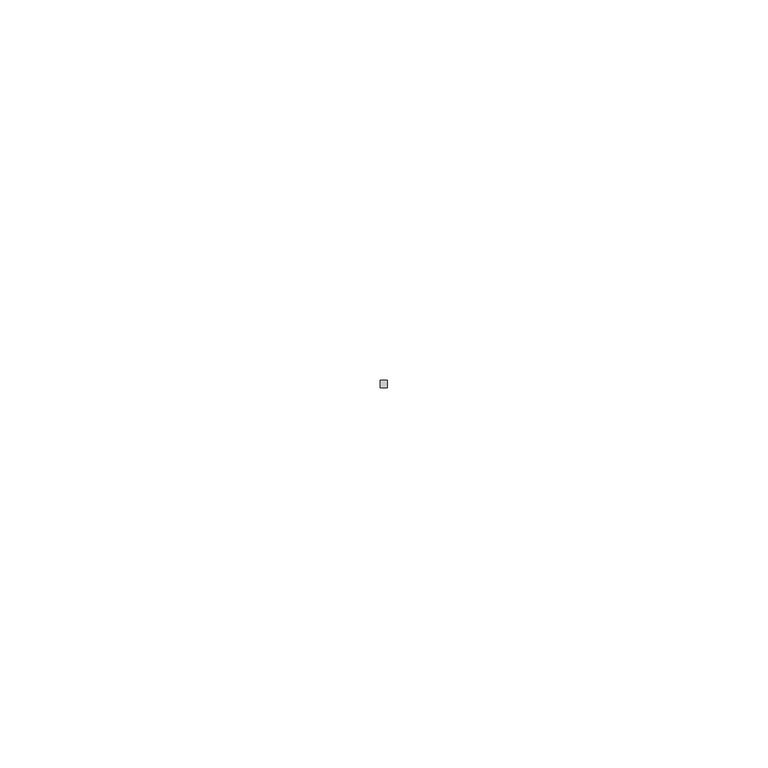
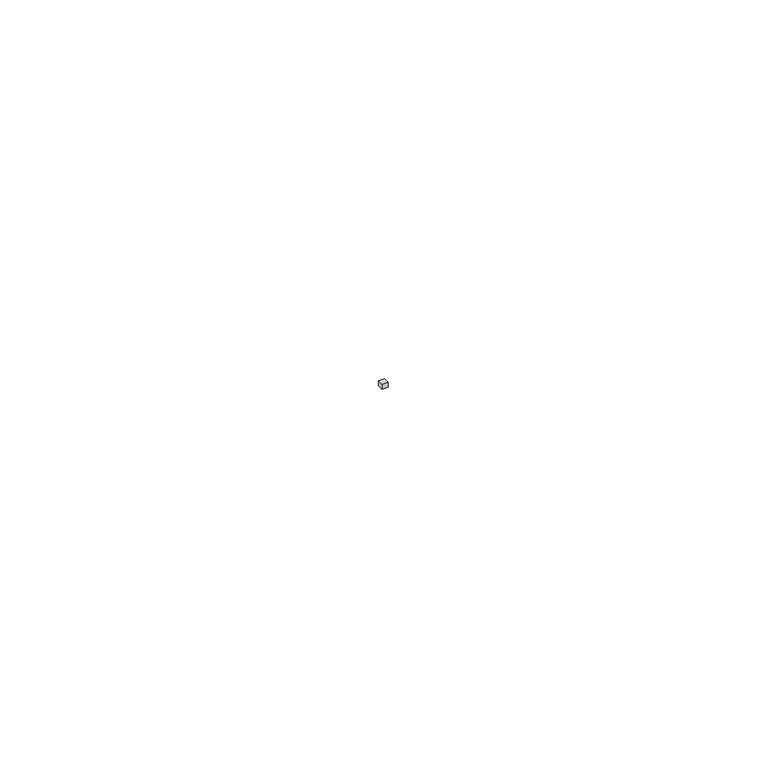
"""IFC4 building model written with IfcOpenShell, lengths in millimetres: proxy geometry, Адаптер SNMPSM : SNMPSM."""

from ifc_helpers import new_model, si_unit, origin, origin_with_axes, place, context, project, spatial, polyline, outline, extrude, source, transform, mapped, element, save


def electrical_equipment_f6df29bd(model_context):
    return source(origin(), model_context, "Body", "SweptSolid", [
        extrude(outline(polyline([(0.9310626, 0.0), (0.0, 0.0), (0.0, 0.9798386), (0.9310626, 0.9798386), (0.9310626, 0.0)])), origin_with_axes(), (0.0, 0.0, 1.0), 0.8017442),
    ])


if __name__ == "__main__":
    model = new_model("IFC4")
    model_context = context("Model", 3, world=origin())
    ifc_project = project(units=[si_unit("LENGTHUNIT", "METRE", prefix="MILLI")], contexts=[model_context])
    site = spatial("IfcSite", under=ifc_project)
    building = spatial("IfcBuilding", under=site)
    placement = place(None, origin())
    electrical_equipment_shape = electrical_equipment_f6df29bd(model_context)
    element("IfcBuildingElementProxy", 1, Name="Адаптер SNMPSM : SNMPSM", ObjectType="Адаптер SNMPSM : SNMPSM", at=placement, inside=building, context=model_context, shape_type="MappedRepresentation", body=[
        mapped(electrical_equipment_shape, transform((0.0, 0.0, 0.0), x_axis=(1.0, 0.0, 0.0), y_axis=(0.0, 1.0, 0.0), z_axis=(0.0, 0.0, 1.0))),
    ])
    save(model, "model.ifc")
